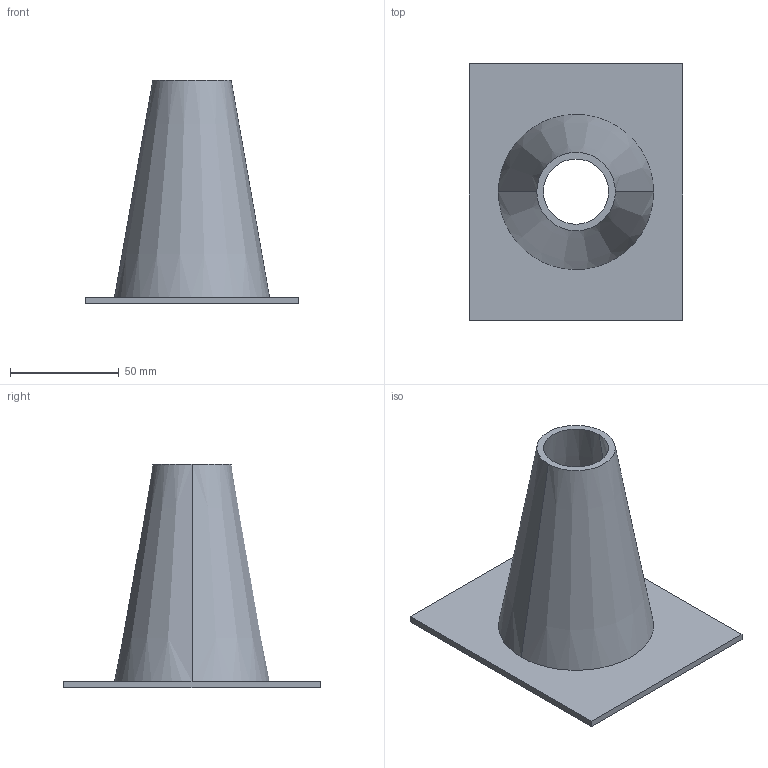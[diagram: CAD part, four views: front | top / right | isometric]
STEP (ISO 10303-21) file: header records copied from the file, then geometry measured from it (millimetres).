
FILE_DESCRIPTION(('CATIA V5 STEP Exchange'),'2;1');
FILE_NAME('C:\_Andres\UNIVERSIDAD\IQS\ASIGNATURAS\DAO\EXF\EXF-15161c\1original\Forés_Garriga_Ej08-ensambla_v8.stp','2016-03-04T21:37:16+00:00',('none'),('none'),'CATIA Version 5 Release 20 SP 1 (IN-10)','CATIA V5 STEP AP203','none');
FILE_SCHEMA(('CONFIG_CONTROL_DESIGN'));
Length unit declared in the file: millimetre
Products named in the file (1): Forés_Garriga_Ej08-ensambla_v8
Bounding box: 98 x 118 x 103 mm (x, y, z)
Volume: 72992.5 mm3; surface area: 50249.7 mm2
Topology: 1 solids, 1 shells, 11 faces, 24 edges, 16 vertices
Faces by surface type: plane 7, cone 4
Entity records: 414 total; most frequent: CARTESIAN_POINT 127, ORIENTED_EDGE 48, DIRECTION 44, EDGE_CURVE 24, AXIS2_PLACEMENT_3D 17, VECTOR 16, LINE 16, VERTEX_POINT 16
